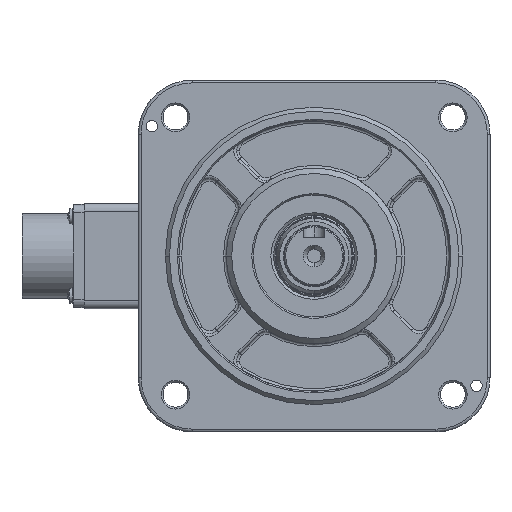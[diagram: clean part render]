
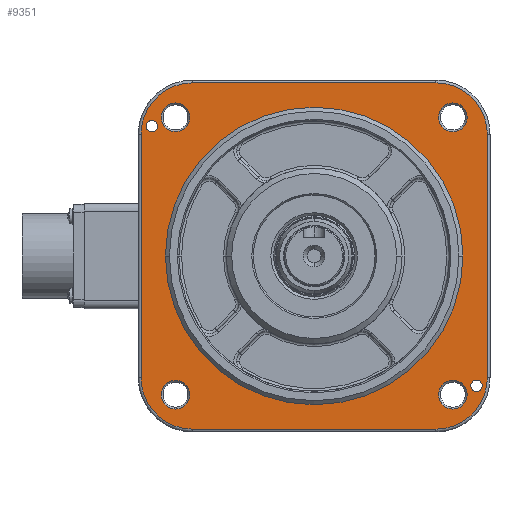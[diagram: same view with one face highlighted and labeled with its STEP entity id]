
A CAD part, left-side view. The second image highlights one B-rep face of the part: STEP entity #9351.
In plain terms, the highlighted planar face has unit normal (-1, 0, 0).
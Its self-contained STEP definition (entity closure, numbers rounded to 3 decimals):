
#4948=CARTESIAN_POINT('',(-90.05,155.539,
-10.841));
#4949=DIRECTION('',(-1.,0.,0.));
#4950=DIRECTION('',(0.,1.,0.));
#4951=AXIS2_PLACEMENT_3D('',#4948,#4949,#4950);
#4953=CARTESIAN_POINT('',(-90.058,155.539,79.159));
#4954=DIRECTION('',(-1.,0.,0.));
#4955=DIRECTION('',(0.,0.,1.));
#4956=AXIS2_PLACEMENT_3D('',#4953,#4954,#4955);
#4958=CARTESIAN_POINT('',(-90.058,65.539,79.159));
#4959=DIRECTION('',(-1.,0.,0.));
#4960=DIRECTION('',(0.,-1.,0.));
#4961=AXIS2_PLACEMENT_3D('',#4958,#4959,#4960);
#4963=CARTESIAN_POINT('',(-90.05,65.539,
-10.841));
#4964=DIRECTION('',(-1.,0.,0.));
#4965=DIRECTION('',(0.,0.,-1.));
#4966=AXIS2_PLACEMENT_3D('',#4963,#4964,#4965);
#4968=CARTESIAN_POINT('',(-90.058,170.539,82.159));
#4969=DIRECTION('',(1.,0.,0.));
#4970=DIRECTION('',(0.,-1.,0.));
#4971=AXIS2_PLACEMENT_3D('',#4968,#4969,#4970);
#4973=CARTESIAN_POINT('',(-90.058,170.539,82.159));
#4974=DIRECTION('',(1.,0.,0.));
#4975=DIRECTION('',(0.,1.,0.));
#4976=AXIS2_PLACEMENT_3D('',#4973,#4974,#4975);
#4978=CARTESIAN_POINT('',(-90.05,50.539,
-13.841));
#4979=DIRECTION('',(1.,0.,0.));
#4980=DIRECTION('',(0.,-1.,0.));
#4981=AXIS2_PLACEMENT_3D('',#4978,#4979,#4980);
#4983=CARTESIAN_POINT('',(-90.05,50.539,
-13.841));
#4984=DIRECTION('',(1.,0.,0.));
#4985=DIRECTION('',(0.,1.,0.));
#4986=AXIS2_PLACEMENT_3D('',#4983,#4984,#4985);
#4988=CARTESIAN_POINT('',(-90.054,110.539,34.159));
#4989=DIRECTION('',(1.,0.,0.));
#4990=DIRECTION('',(0.,1.,0.));
#4991=AXIS2_PLACEMENT_3D('',#4988,#4989,#4990);
#4993=CARTESIAN_POINT('',(-90.054,110.539,34.159));
#4994=DIRECTION('',(1.,0.,0.));
#4995=DIRECTION('',(0.,-1.,0.));
#4996=AXIS2_PLACEMENT_3D('',#4993,#4994,#4995);
#4998=CARTESIAN_POINT('',(-90.05,59.273,
-17.106));
#4999=DIRECTION('',(1.,0.,0.));
#5000=DIRECTION('',(0.,1.,0.));
#5001=AXIS2_PLACEMENT_3D('',#4998,#4999,#5000);
#5003=CARTESIAN_POINT('',(-90.05,59.273,
-17.106));
#5004=DIRECTION('',(1.,0.,0.));
#5005=DIRECTION('',(0.,-1.,0.));
#5006=AXIS2_PLACEMENT_3D('',#5003,#5004,#5005);
#5008=CARTESIAN_POINT('',(-90.05,161.804,
-17.106));
#5009=DIRECTION('',(1.,0.,0.));
#5010=DIRECTION('',(0.,1.,0.));
#5011=AXIS2_PLACEMENT_3D('',#5008,#5009,#5010);
#5013=CARTESIAN_POINT('',(-90.05,161.804,
-17.106));
#5014=DIRECTION('',(1.,0.,0.));
#5015=DIRECTION('',(0.,-1.,0.));
#5016=AXIS2_PLACEMENT_3D('',#5013,#5014,#5015);
#5018=CARTESIAN_POINT('',(-90.059,161.804,85.425));
#5019=DIRECTION('',(1.,0.,0.));
#5020=DIRECTION('',(0.,1.,0.));
#5021=AXIS2_PLACEMENT_3D('',#5018,#5019,#5020);
#5023=CARTESIAN_POINT('',(-90.059,161.804,85.425));
#5024=DIRECTION('',(1.,0.,0.));
#5025=DIRECTION('',(0.,-1.,0.));
#5026=AXIS2_PLACEMENT_3D('',#5023,#5024,#5025);
#5028=CARTESIAN_POINT('',(-90.059,59.273,85.425));
#5029=DIRECTION('',(1.,0.,0.));
#5030=DIRECTION('',(0.,1.,0.));
#5031=AXIS2_PLACEMENT_3D('',#5028,#5029,#5030);
#5033=CARTESIAN_POINT('',(-90.059,59.273,85.425));
#5034=DIRECTION('',(1.,0.,0.));
#5035=DIRECTION('',(0.,-1.,0.));
#5036=AXIS2_PLACEMENT_3D('',#5033,#5034,#5035);
#5038=DIRECTION('',(0.,1.,0.));
#5039=VECTOR('',#5038,90.);
#5040=CARTESIAN_POINT('',(-90.049,65.539,
-29.841));
#5041=LINE('',#5040,#5039);
#5061=DIRECTION('',(0.,0.,1.));
#5062=VECTOR('',#5061,90.);
#5063=CARTESIAN_POINT('',(-90.05,174.539,
-10.841));
#5064=LINE('',#5063,#5062);
#5088=DIRECTION('',(0.,-1.,0.));
#5089=VECTOR('',#5088,90.);
#5090=CARTESIAN_POINT('',(-90.06,155.539,98.159));
#5091=LINE('',#5090,#5089);
#5111=DIRECTION('',(0.,0.,-1.));
#5112=VECTOR('',#5111,90.);
#5113=CARTESIAN_POINT('',(-90.058,46.539,79.159));
#5114=LINE('',#5113,#5112);
#7750=CARTESIAN_POINT('',(-90.05,52.639,
-13.841));
#7752=VERTEX_POINT('',#7750);
#7753=CARTESIAN_POINT('',(-90.058,46.539,79.159));
#7754=CARTESIAN_POINT('',(-90.06,65.539,98.159));
#7755=VERTEX_POINT('',#7753);
#7756=VERTEX_POINT('',#7754);
#7781=CARTESIAN_POINT('',(-90.049,65.539,
-29.841));
#7782=CARTESIAN_POINT('',(-90.05,46.539,
-10.841));
#7783=VERTEX_POINT('',#7781);
#7784=VERTEX_POINT('',#7782);
#7836=CARTESIAN_POINT('',(-90.054,165.539,34.159));
#7838=VERTEX_POINT('',#7836);
#8009=CARTESIAN_POINT('',(-90.05,64.573,
-17.106));
#8010=CARTESIAN_POINT('',(-90.05,53.973,
-17.106));
#8011=VERTEX_POINT('',#8009);
#8012=VERTEX_POINT('',#8010);
#8037=CARTESIAN_POINT('',(-90.05,174.539,
-10.841));
#8039=VERTEX_POINT('',#8037);
#8101=CARTESIAN_POINT('',(-90.06,155.539,98.159));
#8103=VERTEX_POINT('',#8101);
#8116=CARTESIAN_POINT('',(-90.054,55.539,34.159));
#8118=VERTEX_POINT('',#8116);
#8149=CARTESIAN_POINT('',(-90.059,64.573,85.425));
#8151=VERTEX_POINT('',#8149);
#8202=CARTESIAN_POINT('',(-90.058,172.639,82.159));
#8204=VERTEX_POINT('',#8202);
#8209=CARTESIAN_POINT('',(-90.059,167.104,85.425));
#8211=VERTEX_POINT('',#8209);
#8231=CARTESIAN_POINT('',(-90.059,53.973,85.425));
#8233=VERTEX_POINT('',#8231);
#8253=CARTESIAN_POINT('',(-90.05,156.504,
-17.106));
#8254=CARTESIAN_POINT('',(-90.05,167.104,
-17.106));
#8255=VERTEX_POINT('',#8253);
#8256=VERTEX_POINT('',#8254);
#8381=CARTESIAN_POINT('',(-90.05,48.439,
-13.841));
#8382=VERTEX_POINT('',#8381);
#8427=CARTESIAN_POINT('',(-90.059,156.504,85.425));
#8428=VERTEX_POINT('',#8427);
#8460=CARTESIAN_POINT('',(-90.058,168.439,82.159));
#8461=VERTEX_POINT('',#8460);
#8468=CARTESIAN_POINT('',(-90.049,155.539,
-29.841));
#8469=VERTEX_POINT('',#8468);
#8502=CARTESIAN_POINT('',(-90.058,174.539,79.159));
#8503=VERTEX_POINT('',#8502);
#9288=CARTESIAN_POINT('',(-90.054,110.539,34.159));
#9289=DIRECTION('',(-1.,0.,0.));
#9290=DIRECTION('',(0.,-1.,0.));
#9291=AXIS2_PLACEMENT_3D('',#9288,#9289,#9290);
#9292=PLANE('',#9291);
#9294=ORIENTED_EDGE('',*,*,#9293,.T.);
#9296=ORIENTED_EDGE('',*,*,#9295,.F.);
#9298=ORIENTED_EDGE('',*,*,#9297,.T.);
#9300=ORIENTED_EDGE('',*,*,#9299,.F.);
#9302=ORIENTED_EDGE('',*,*,#9301,.T.);
#9304=ORIENTED_EDGE('',*,*,#9303,.F.);
#9306=ORIENTED_EDGE('',*,*,#9305,.T.);
#9308=ORIENTED_EDGE('',*,*,#9307,.F.);
#9309=EDGE_LOOP('',(#9294,#9296,#9298,#9300,#9302,#9304,#9306,#9308));
#9310=FACE_OUTER_BOUND('',#9309,.F.);
#9312=ORIENTED_EDGE('',*,*,#9311,.F.);
#9314=ORIENTED_EDGE('',*,*,#9313,.F.);
#9315=EDGE_LOOP('',(#9312,#9314));
#9316=FACE_BOUND('',#9315,.F.);
#9318=ORIENTED_EDGE('',*,*,#9317,.F.);
#9320=ORIENTED_EDGE('',*,*,#9319,.F.);
#9321=EDGE_LOOP('',(#9318,#9320));
#9322=FACE_BOUND('',#9321,.F.);
#9324=ORIENTED_EDGE('',*,*,#9323,.F.);
#9326=ORIENTED_EDGE('',*,*,#9325,.F.);
#9327=EDGE_LOOP('',(#9324,#9326));
#9328=FACE_BOUND('',#9327,.F.);
#9330=ORIENTED_EDGE('',*,*,#9329,.F.);
#9332=ORIENTED_EDGE('',*,*,#9331,.F.);
#9333=EDGE_LOOP('',(#9330,#9332));
#9334=FACE_BOUND('',#9333,.F.);
#9335=ORIENTED_EDGE('',*,*,#9267,.F.);
#9336=ORIENTED_EDGE('',*,*,#9282,.F.);
#9337=EDGE_LOOP('',(#9335,#9336));
#9338=FACE_BOUND('',#9337,.F.);
#9340=ORIENTED_EDGE('',*,*,#9339,.F.);
#9342=ORIENTED_EDGE('',*,*,#9341,.F.);
#9343=EDGE_LOOP('',(#9340,#9342));
#9344=FACE_BOUND('',#9343,.F.);
#9346=ORIENTED_EDGE('',*,*,#9345,.F.);
#9348=ORIENTED_EDGE('',*,*,#9347,.F.);
#9349=EDGE_LOOP('',(#9346,#9348));
#9350=FACE_BOUND('',#9349,.F.);
#9351=ADVANCED_FACE('',(#9310,#9316,#9322,#9328,#9334,#9338,#9344,#9350),#9292,
.T.);
#4952=CIRCLE('',#4951,19.);
#4957=CIRCLE('',#4956,19.);
#4962=CIRCLE('',#4961,19.);
#4967=CIRCLE('',#4966,19.);
#4972=CIRCLE('',#4971,2.1);
#4977=CIRCLE('',#4976,2.1);
#4982=CIRCLE('',#4981,2.1);
#4987=CIRCLE('',#4986,2.1);
#4992=CIRCLE('',#4991,55.);
#4997=CIRCLE('',#4996,55.);
#5002=CIRCLE('',#5001,5.3);
#5007=CIRCLE('',#5006,5.3);
#5012=CIRCLE('',#5011,5.3);
#5017=CIRCLE('',#5016,5.3);
#5022=CIRCLE('',#5021,5.3);
#5027=CIRCLE('',#5026,5.3);
#5032=CIRCLE('',#5031,5.3);
#5037=CIRCLE('',#5036,5.3);
#9267=EDGE_CURVE('',#8256,#8255,#5012,.T.);
#9282=EDGE_CURVE('',#8255,#8256,#5017,.T.);
#9293=EDGE_CURVE('',#7783,#8469,#5041,.T.);
#9295=EDGE_CURVE('',#8039,#8469,#4952,.T.);
#9297=EDGE_CURVE('',#8039,#8503,#5064,.T.);
#9299=EDGE_CURVE('',#8103,#8503,#4957,.T.);
#9301=EDGE_CURVE('',#8103,#7756,#5091,.T.);
#9303=EDGE_CURVE('',#7755,#7756,#4962,.T.);
#9305=EDGE_CURVE('',#7755,#7784,#5114,.T.);
#9307=EDGE_CURVE('',#7783,#7784,#4967,.T.);
#9311=EDGE_CURVE('',#8461,#8204,#4972,.T.);
#9313=EDGE_CURVE('',#8204,#8461,#4977,.T.);
#9317=EDGE_CURVE('',#8382,#7752,#4982,.T.);
#9319=EDGE_CURVE('',#7752,#8382,#4987,.T.);
#9323=EDGE_CURVE('',#7838,#8118,#4992,.T.);
#9325=EDGE_CURVE('',#8118,#7838,#4997,.T.);
#9329=EDGE_CURVE('',#8011,#8012,#5002,.T.);
#9331=EDGE_CURVE('',#8012,#8011,#5007,.T.);
#9339=EDGE_CURVE('',#8211,#8428,#5022,.T.);
#9341=EDGE_CURVE('',#8428,#8211,#5027,.T.);
#9345=EDGE_CURVE('',#8151,#8233,#5032,.T.);
#9347=EDGE_CURVE('',#8233,#8151,#5037,.T.);
